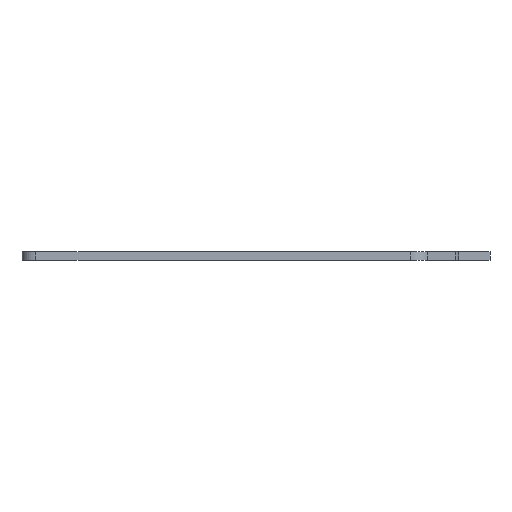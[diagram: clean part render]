
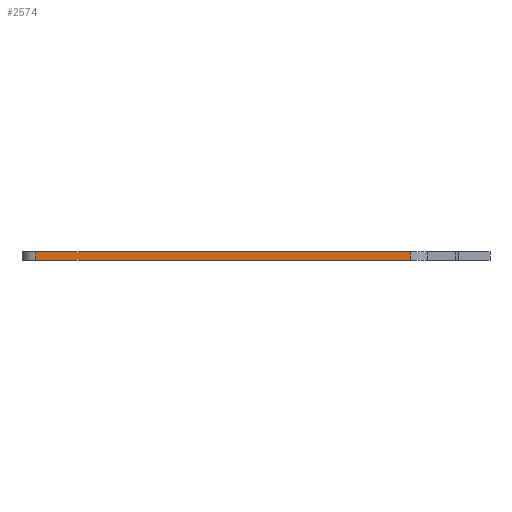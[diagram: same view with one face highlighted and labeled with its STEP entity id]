
A CAD part, left-side view. The second image highlights one B-rep face of the part: STEP entity #2574.
In plain terms, the highlighted planar face has unit normal (-1, 0, 0).
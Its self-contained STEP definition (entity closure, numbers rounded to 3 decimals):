
#73 = PLANE('',#74);
#74 = AXIS2_PLACEMENT_3D('',#75,#76,#77);
#75 = CARTESIAN_POINT('',(78.184,89.273,3.));
#76 = DIRECTION('',(0.,0.,1.));
#77 = DIRECTION('',(1.,0.,-0.));
#128 = PLANE('',#129);
#129 = AXIS2_PLACEMENT_3D('',#130,#131,#132);
#130 = CARTESIAN_POINT('',(78.184,89.273,0.));
#131 = DIRECTION('',(0.,0.,1.));
#132 = DIRECTION('',(1.,0.,-0.));
#161 = CYLINDRICAL_SURFACE('',#162,7.5);
#162 = AXIS2_PLACEMENT_3D('',#163,#164,#165);
#163 = CARTESIAN_POINT('',(7.5,30.25,0.));
#164 = DIRECTION('',(-0.,-0.,-1.));
#165 = DIRECTION('',(1.,0.,-0.));
#1145 = VERTEX_POINT('',#1146);
#1146 = CARTESIAN_POINT('',(0.,164.5,0.));
#1161 = CYLINDRICAL_SURFACE('',#1162,5.);
#1162 = AXIS2_PLACEMENT_3D('',#1163,#1164,#1165);
#1163 = CARTESIAN_POINT('',(5.,164.5,0.));
#1164 = DIRECTION('',(-0.,-0.,-1.));
#1165 = DIRECTION('',(1.,0.,-0.));
#1173 = EDGE_CURVE('',#1145,#1174,#1176,.T.);
#1174 = VERTEX_POINT('',#1175);
#1175 = CARTESIAN_POINT('',(0.,30.25,0.));
#1176 = SURFACE_CURVE('',#1177,(#1181,#1188),.PCURVE_S1.);
#1177 = LINE('',#1178,#1179);
#1178 = CARTESIAN_POINT('',(0.,164.5,0.));
#1179 = VECTOR('',#1180,1.);
#1180 = DIRECTION('',(0.,-1.,0.));
#1181 = PCURVE('',#128,#1182);
#1182 = DEFINITIONAL_REPRESENTATION('',(#1183),#1187);
#1183 = LINE('',#1184,#1185);
#1184 = CARTESIAN_POINT('',(-78.184,75.227));
#1185 = VECTOR('',#1186,1.);
#1186 = DIRECTION('',(0.,-1.));
#1187 = ( GEOMETRIC_REPRESENTATION_CONTEXT(2) 
PARAMETRIC_REPRESENTATION_CONTEXT() REPRESENTATION_CONTEXT('2D SPACE',''
  ) );
#1188 = PCURVE('',#1189,#1194);
#1189 = PLANE('',#1190);
#1190 = AXIS2_PLACEMENT_3D('',#1191,#1192,#1193);
#1191 = CARTESIAN_POINT('',(0.,164.5,0.));
#1192 = DIRECTION('',(1.,0.,-0.));
#1193 = DIRECTION('',(0.,-1.,0.));
#1194 = DEFINITIONAL_REPRESENTATION('',(#1195),#1199);
#1195 = LINE('',#1196,#1197);
#1196 = CARTESIAN_POINT('',(0.,0.));
#1197 = VECTOR('',#1198,1.);
#1198 = DIRECTION('',(1.,0.));
#1199 = ( GEOMETRIC_REPRESENTATION_CONTEXT(2) 
PARAMETRIC_REPRESENTATION_CONTEXT() REPRESENTATION_CONTEXT('2D SPACE',''
  ) );
#2212 = VERTEX_POINT('',#2213);
#2213 = CARTESIAN_POINT('',(0.,164.5,3.));
#2235 = EDGE_CURVE('',#2212,#2236,#2238,.T.);
#2236 = VERTEX_POINT('',#2237);
#2237 = CARTESIAN_POINT('',(0.,30.25,3.));
#2238 = SURFACE_CURVE('',#2239,(#2243,#2250),.PCURVE_S1.);
#2239 = LINE('',#2240,#2241);
#2240 = CARTESIAN_POINT('',(0.,164.5,3.));
#2241 = VECTOR('',#2242,1.);
#2242 = DIRECTION('',(0.,-1.,0.));
#2243 = PCURVE('',#73,#2244);
#2244 = DEFINITIONAL_REPRESENTATION('',(#2245),#2249);
#2245 = LINE('',#2246,#2247);
#2246 = CARTESIAN_POINT('',(-78.184,75.227));
#2247 = VECTOR('',#2248,1.);
#2248 = DIRECTION('',(0.,-1.));
#2249 = ( GEOMETRIC_REPRESENTATION_CONTEXT(2) 
PARAMETRIC_REPRESENTATION_CONTEXT() REPRESENTATION_CONTEXT('2D SPACE',''
  ) );
#2250 = PCURVE('',#1189,#2251);
#2251 = DEFINITIONAL_REPRESENTATION('',(#2252),#2256);
#2252 = LINE('',#2253,#2254);
#2253 = CARTESIAN_POINT('',(0.,-3.));
#2254 = VECTOR('',#2255,1.);
#2255 = DIRECTION('',(1.,0.));
#2256 = ( GEOMETRIC_REPRESENTATION_CONTEXT(2) 
PARAMETRIC_REPRESENTATION_CONTEXT() REPRESENTATION_CONTEXT('2D SPACE',''
  ) );
#2524 = EDGE_CURVE('',#1174,#2236,#2525,.T.);
#2525 = SURFACE_CURVE('',#2526,(#2530,#2537),.PCURVE_S1.);
#2526 = LINE('',#2527,#2528);
#2527 = CARTESIAN_POINT('',(0.,30.25,0.));
#2528 = VECTOR('',#2529,1.);
#2529 = DIRECTION('',(0.,0.,1.));
#2530 = PCURVE('',#161,#2531);
#2531 = DEFINITIONAL_REPRESENTATION('',(#2532),#2536);
#2532 = LINE('',#2533,#2534);
#2533 = CARTESIAN_POINT('',(-3.142,0.));
#2534 = VECTOR('',#2535,1.);
#2535 = DIRECTION('',(-0.,-1.));
#2536 = ( GEOMETRIC_REPRESENTATION_CONTEXT(2) 
PARAMETRIC_REPRESENTATION_CONTEXT() REPRESENTATION_CONTEXT('2D SPACE',''
  ) );
#2537 = PCURVE('',#1189,#2538);
#2538 = DEFINITIONAL_REPRESENTATION('',(#2539),#2543);
#2539 = LINE('',#2540,#2541);
#2540 = CARTESIAN_POINT('',(134.25,0.));
#2541 = VECTOR('',#2542,1.);
#2542 = DIRECTION('',(0.,-1.));
#2543 = ( GEOMETRIC_REPRESENTATION_CONTEXT(2) 
PARAMETRIC_REPRESENTATION_CONTEXT() REPRESENTATION_CONTEXT('2D SPACE',''
  ) );
#2574 = ADVANCED_FACE('',(#2575),#1189,.F.);
#2575 = FACE_BOUND('',#2576,.F.);
#2576 = EDGE_LOOP('',(#2577,#2598,#2599,#2600));
#2577 = ORIENTED_EDGE('',*,*,#2578,.T.);
#2578 = EDGE_CURVE('',#1145,#2212,#2579,.T.);
#2579 = SURFACE_CURVE('',#2580,(#2584,#2591),.PCURVE_S1.);
#2580 = LINE('',#2581,#2582);
#2581 = CARTESIAN_POINT('',(0.,164.5,0.));
#2582 = VECTOR('',#2583,1.);
#2583 = DIRECTION('',(0.,0.,1.));
#2584 = PCURVE('',#1189,#2585);
#2585 = DEFINITIONAL_REPRESENTATION('',(#2586),#2590);
#2586 = LINE('',#2587,#2588);
#2587 = CARTESIAN_POINT('',(0.,0.));
#2588 = VECTOR('',#2589,1.);
#2589 = DIRECTION('',(0.,-1.));
#2590 = ( GEOMETRIC_REPRESENTATION_CONTEXT(2) 
PARAMETRIC_REPRESENTATION_CONTEXT() REPRESENTATION_CONTEXT('2D SPACE',''
  ) );
#2591 = PCURVE('',#1161,#2592);
#2592 = DEFINITIONAL_REPRESENTATION('',(#2593),#2597);
#2593 = LINE('',#2594,#2595);
#2594 = CARTESIAN_POINT('',(-3.142,0.));
#2595 = VECTOR('',#2596,1.);
#2596 = DIRECTION('',(-0.,-1.));
#2597 = ( GEOMETRIC_REPRESENTATION_CONTEXT(2) 
PARAMETRIC_REPRESENTATION_CONTEXT() REPRESENTATION_CONTEXT('2D SPACE',''
  ) );
#2598 = ORIENTED_EDGE('',*,*,#2235,.T.);
#2599 = ORIENTED_EDGE('',*,*,#2524,.F.);
#2600 = ORIENTED_EDGE('',*,*,#1173,.F.);
